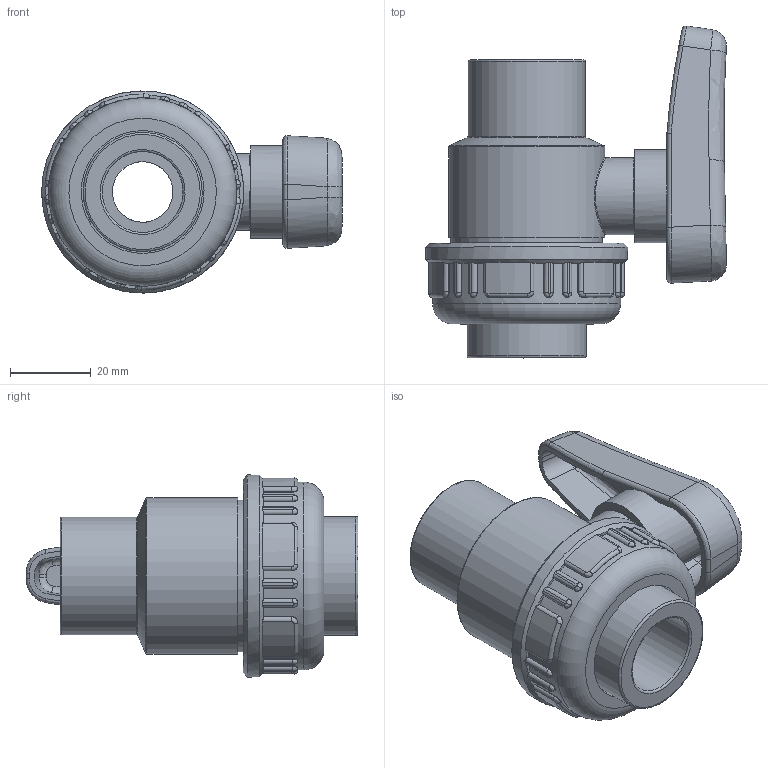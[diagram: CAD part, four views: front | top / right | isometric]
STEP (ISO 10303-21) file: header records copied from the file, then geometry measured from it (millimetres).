
FILE_DESCRIPTION(/* description */ (''),/* implementation_level */ '2;1');
FILE_NAME(/* name */ 'C:\Users\POLYPIPE\Desktop\DATASET INVENTOR\LIBRERIA EFFAST\3D_VALVOLE\3D_VALVOLE A SFERA\3D_SV\3D_BDRSVD\3D_BDRSVD0200.stp',/* time_stamp */ '2018-01-23T16:28:55+01:00',/* author */ ('POLYPIPE'),/* organization */ (''),/* preprocessor_version */ 'ST-DEVELOPER v16.1',/* originating_system */ 'Autodesk Inventor 2016',/* authorisation */ '');
FILE_SCHEMA (('CONFIG_CONTROL_DESIGN'));
Length unit declared in the file: centimetre
Products named in the file (1): 3D_BDRSVD0200
Bounding box: 74.42 x 82.11 x 49.99 mm (x, y, z)
Volume: 75190 mm3; surface area: 30470.8 mm2
Topology: 2 solids, 2 shells, 351 faces, 883 edges, 544 vertices
Faces by surface type: cylinder 115, plane 105, bspline 99, torus 22, sphere 7, cone 3
Full cylindrical faces by diameter (mm): 12 x1, 15 x2, 19 x1, 20 x2, 23 x1, 29 x1, 29.5 x1, 30.4 x1, 35.4 x1, 37.5 x1, 38.6 x1, 40.4 x1, 46.5 x1, 50 x1
Entity records: 33393 total; most frequent: CARTESIAN_POINT 25192, ORIENTED_EDGE 1696, DIRECTION 1487, EDGE_CURVE 848, AXIS2_PLACEMENT_3D 586, VERTEX_POINT 537, EDGE_LOOP 393, STYLED_ITEM 353
